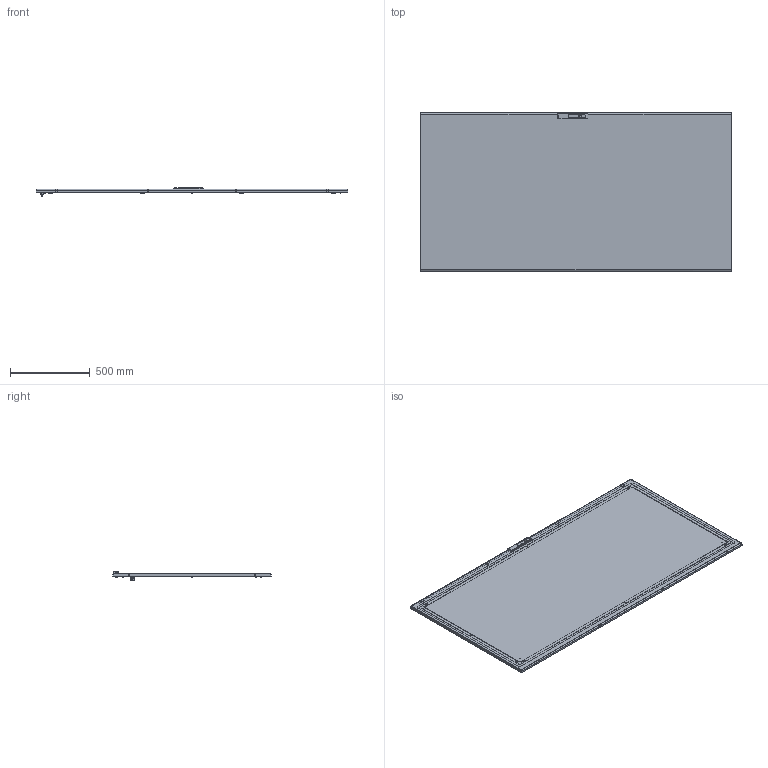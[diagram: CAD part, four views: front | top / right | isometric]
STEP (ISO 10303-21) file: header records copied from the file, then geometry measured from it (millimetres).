
FILE_DESCRIPTION(('CAx-IF Rec.Pracs.---Model Styling and Organization---1.2---2011-12-15','CAx-IF Rec.Pracs.---Geometric and Assembly Validation Properties---4.1---2014-06-16','CAx-IF Rec.Pracs.---PMI Polyline Presentation---2.0---2013-05-24'),'2;1');
FILE_NAME('R5CPE20100.stp','2021-05-06T05:57:34+03:00',(''),(''),'STEP Interface 4.4 by CT CoreTechnologie','3D_Evolution4.4 by CT CoreTechnologie','');
FILE_SCHEMA(('AUTOMOTIVE_DESIGN { 1 0 10303 214 1 1 1 1 }'));
Length unit declared in the file: millimetre
Products named in the file (27): 2000x1000; sealant for sviluppo porta quadro_2000x1000; AC00C184 dado telaio interno porta_Default; ASTINA Inferiore_2000; Montante verticale + Traversa orizzontale interno porta_Traversa orizzontale-verticale 1000; Wood screw 4.2x13_Tapping screw DIN 7049-ST4.2x13-F-H-S; linguetta_AC00C387; ASTINA Superiore_2000; hinge AC00C170_Default; AC00C183_Default; end-cap_AC00C061; AC00C400 Quadro IP55 Guida aste_Default; Tappo_22222; Nut M6_Hexagon Nut ISO - 4034 - M6 - S; Çåðêàëüíî îòðàçèòüterminator for door.SLDPRT1; Çåðêàëüíî îòðàçèòüboccola AC00C378; Çåðêàëüíî îòðàçèòüribattino AC00C377; Montante verticale + Traversa orizzontale interno porta_Montante verticale 2000; Sviluppo porta quadro_2000x1000; RAMBLOCK montata modificated_Default; basetta esterna_AC00C506; maniglia RAM BLOCK modificated_AC00C505; terminator for door.SLDPRT; boccola AC00C378; ribattino AC00C377; Sostegno autoallineante per porta AC00C446; Çåðêàëüíî îòðàçèòüterminator for door.SLDPRT
Assembly tree (55 placements, depth 3):
  2000x1000
    sealant for sviluppo porta quadro_2000x1000
    AC00C184 dado telaio interno porta_Default  x8
    ASTINA Inferiore_2000
    Montante verticale + Traversa orizzontale interno porta_Traversa orizzontale-verticale 1000  x2
    Wood screw 4.2x13_Tapping screw DIN 7049-ST4.2x13-F-H-S  x4
    linguetta_AC00C387
    ASTINA Superiore_2000
    hinge AC00C170_Default  x4
    AC00C183_Default  x4
    end-cap_AC00C061  x2
    AC00C400 Quadro IP55 Guida aste_Default  x4
    Tappo_22222  x2
    Nut M6_Hexagon Nut ISO - 4034 - M6 - S  x4
    Çåðêàëüíî îòðàçèòüterminator for door.SLDPRT1
      Çåðêàëüíî îòðàçèòüboccola AC00C378
      Çåðêàëüíî îòðàçèòüribattino AC00C377
    Montante verticale + Traversa orizzontale interno porta_Montante verticale 2000  x2
    Sviluppo porta quadro_2000x1000
    RAMBLOCK montata modificated_Default
      basetta esterna_AC00C506
      maniglia RAM BLOCK modificated_AC00C505
    terminator for door.SLDPRT  x2
      boccola AC00C378
      ribattino AC00C377
    Sostegno autoallineante per porta AC00C446
    Çåðêàëüíî îòðàçèòüterminator for door.SLDPRT
      Çåðêàëüíî îòðàçèòüribattino AC00C377
      Çåðêàëüíî îòðàçèòüboccola AC00C378
Bounding box: 1955 x 994 x 52.66 mm (x, y, z)
Surface area: 8469989.1 mm2 (no closed solid volume)
Topology: 0 solids, 77 shells, 1838 faces, 4749 edges, 3065 vertices
Faces by surface type: plane 812, cylinder 809, bspline 217
Entity records: 32112 total; most frequent: CARTESIAN_POINT 9088, DIRECTION 4588, ORIENTED_EDGE 4332, EDGE_CURVE 2166, AXIS2_PLACEMENT_3D 1683, VERTEX_POINT 1407, VECTOR 1222, LINE 1222
